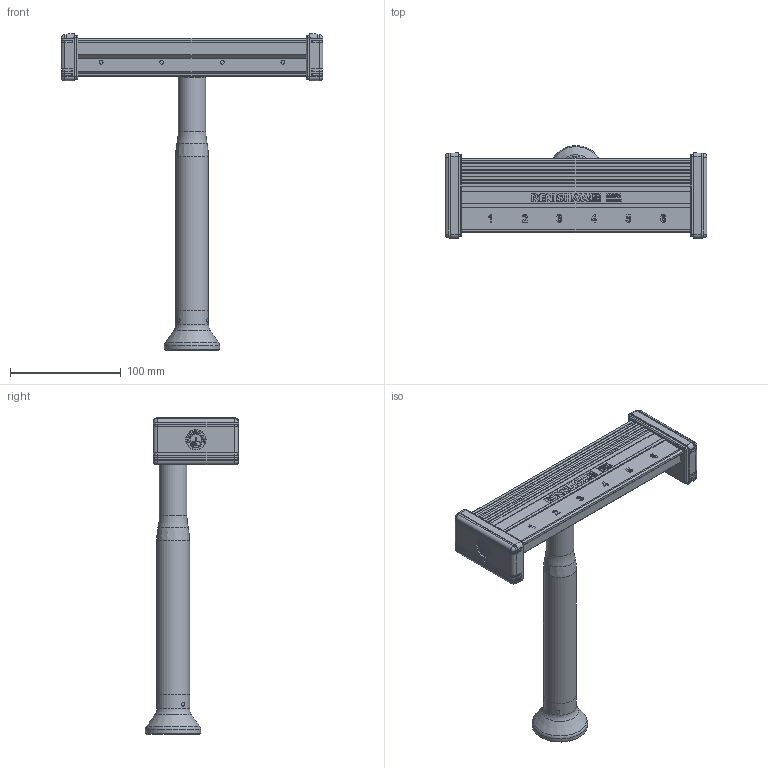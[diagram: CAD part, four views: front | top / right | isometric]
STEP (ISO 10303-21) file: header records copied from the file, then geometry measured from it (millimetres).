
FILE_DESCRIPTION(/* description */ (''),/* implementation_level */ '2;1');
FILE_NAME(/* name */ 'LA-1371-0347-A.stp',/* time_stamp */ '2019-11-19T13:19:29+00:00',/* author */ (''),/* organization */ (''),/* preprocessor_version */ 'ST-DEVELOPER v16.7',/* originating_system */ 'SIEMENS PLM Software NX 12.0',/* authorisation */ '');
FILE_SCHEMA (('AUTOMOTIVE_DESIGN { 1 0 10303 214 3 1 1 1 }'));
Length unit declared in the file: millimetre
Products named in the file (1): sw143FA45B997id4
Bounding box: 236.15 x 83.98 x 285.35 mm (x, y, z)
Volume: 623881.7 mm3; surface area: 84569.9 mm2
Topology: 2 solids, 2 shells, 351 faces, 1268 edges, 1023 vertices
Faces by surface type: plane 244, cylinder 82, bspline 9, sphere 8, cone 5, torus 3
Full cylindrical faces by diameter (mm): 17.7 x2, 24.9 x1, 29.8 x2, 50 x1
Entity records: 15467 total; most frequent: CARTESIAN_POINT 4325, ORIENTED_EDGE 2486, DIRECTION 1792, EDGE_CURVE 1243, VERTEX_POINT 1018, LINE 614, VECTOR 614, AXIS2_PLACEMENT_3D 589
